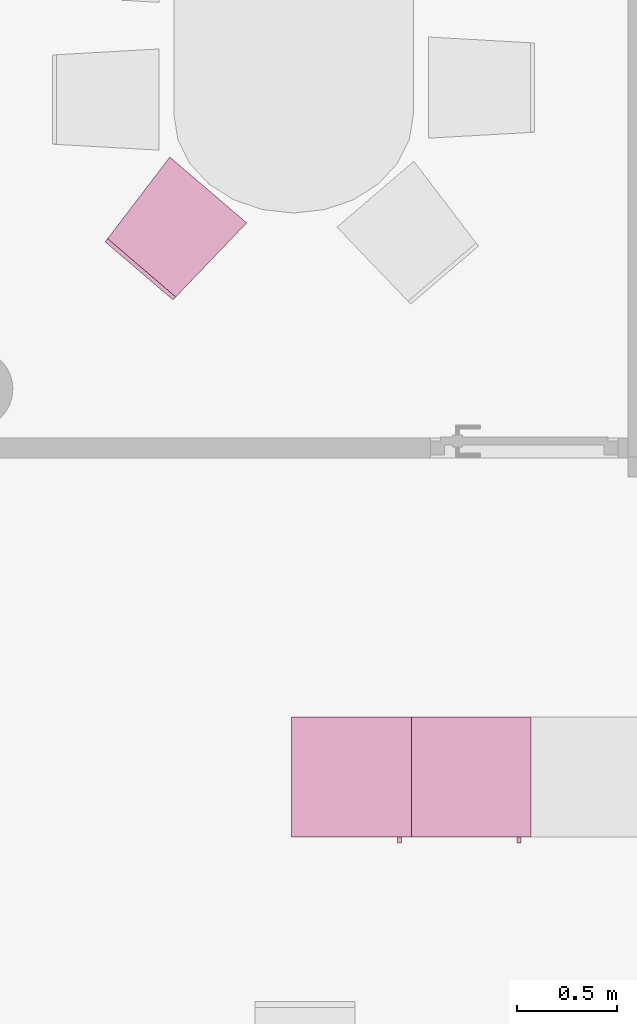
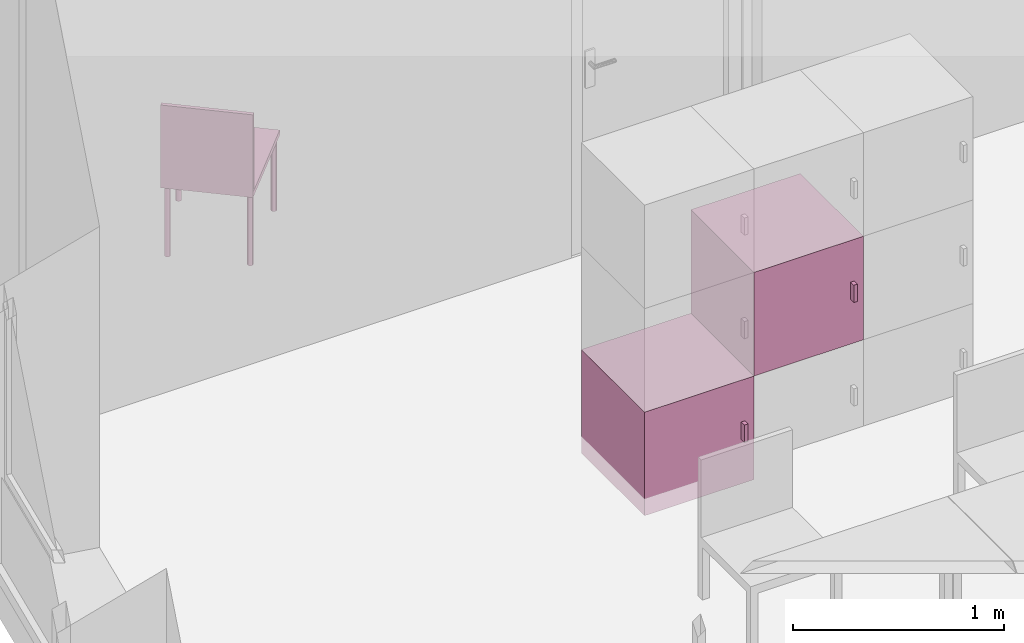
"""IFC4 building model written with IfcOpenShell, lengths in metres."""

from ifc_helpers import new_model, entity, si_unit, converted_unit, derived_unit, frame, origin, place, context, subcontext, project, spatial, faceted_brep, element, save


model = new_model("IFC4")

# Units and contexts
model_context = context("Model", 3, precision=1e-05, world=origin())
body_context = subcontext(model_context, "Body", "Model", "MODEL_VIEW")
ifc_project = project(units=[si_unit("LENGTHUNIT", "METRE"), si_unit("AREAUNIT", "SQUARE_METRE"), si_unit("VOLUMEUNIT", "CUBIC_METRE"), si_unit("MASSUNIT", "GRAM", prefix="KILO"), converted_unit("PLANEANGLEUNIT", "DEGREE", entity("IfcPlaneAngleMeasure", 0.0174532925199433), si_unit("PLANEANGLEUNIT", "RADIAN"), dimensions=[0, 0, 0, 0, 0, 0, 0]), derived_unit("THERMALTRANSMITTANCEUNIT", [(si_unit("POWERUNIT", "WATT"), 1), (si_unit("THERMODYNAMICTEMPERATUREUNIT", "KELVIN"), -1), (si_unit("LENGTHUNIT", "METRE"), -2)]), derived_unit("VOLUMETRICFLOWRATEUNIT", [(si_unit("LENGTHUNIT", "METRE"), 3), (converted_unit("TIMEUNIT", "hour", entity("IfcTimeMeasure", 3600.0), si_unit("TIMEUNIT", "SECOND"), dimensions=[0, 0, 1, 0, 0, 0, 0]), -1), (si_unit("LENGTHUNIT", "METRE"), -1)])], contexts=[model_context])

# Building, storeys
building_placement = place(None, origin())
building = spatial("IfcBuilding", under=ifc_project, at=building_placement, Name="HABITATGE PLURIFAMILIAR", CompositionType="ELEMENT")
storey_1_placement = place(building_placement, frame((0.0, 0.0, 15.28)))
storey_1 = spatial("IfcBuildingStorey", under=building, at=storey_1_placement, Name="PLANTA QUARTA", CompositionType="ELEMENT", Elevation=15.28)
storey_2_placement = place(storey_1_placement, frame((0.0, 0.0, 12.27)))
storey_2 = spatial("IfcBuildingStorey", under=storey_1, at=storey_2_placement, Name="NOU", CompositionType="PARTIAL")

# Furniture
furniture_1_placement = place(storey_2_placement, frame((402.652081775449, 21.5873137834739, -12.37)))
element("IfcFurniture", 1, at=furniture_1_placement, inside=storey_2, Name="Armai 60x60x60_P4", context=body_context, shape_type="Brep", body=[
    faceted_brep([(0.600000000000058, 0.0300000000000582, 0.02), (0.600000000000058, 0.0300000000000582, 0.0), (0.0, 0.0300000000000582, 0.0), (0.0, 0.0300000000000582, 0.02), (0.0, 0.630000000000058, 0.0), (0.0, 0.630000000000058, 0.02), (0.600000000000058, 0.630000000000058, 0.0), (0.600000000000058, 0.630000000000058, 0.02)], [[[0, 1, 2, 3]], [[3, 2, 4, 5]], [[5, 4, 6, 7]], [[7, 6, 1, 0]], [[0, 3, 5, 7]], [[1, 6, 4, 2]]], orient=[[False], [False], [False], [False], [False], [False]]),
    faceted_brep([(0.02, 0.63, 0.58), (0.02, 0.61, 0.58), (0.02, 0.61, 0.02), (0.02, 0.63, 0.02), (0.58, 0.61, 0.02), (0.58, 0.63, 0.02), (0.58, 0.61, 0.58), (0.58, 0.63, 0.58)], [[[0, 1, 2, 3]], [[3, 2, 4, 5]], [[5, 4, 6, 7]], [[7, 6, 1, 0]], [[0, 3, 5, 7]], [[1, 6, 4, 2]]], orient=[[False], [False], [False], [False], [False], [False]]),
    faceted_brep([(0.58, 0.0300000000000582, 0.58), (0.6, 0.0300000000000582, 0.58), (0.6, 0.0300000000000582, 0.02), (0.58, 0.0300000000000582, 0.02), (0.6, 0.630000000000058, 0.02), (0.58, 0.630000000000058, 0.02), (0.6, 0.630000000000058, 0.58), (0.58, 0.630000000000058, 0.58)], [[[0, 1, 2, 3]], [[3, 2, 4, 5]], [[5, 4, 6, 7]], [[7, 6, 1, 0]], [[0, 3, 5, 7]], [[1, 6, 4, 2]]], orient=[[False], [False], [False], [False], [False], [False]]),
    faceted_brep([(0.600000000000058, 0.0500000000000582, 0.58), (0.600000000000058, 0.0300000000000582, 0.58), (0.600000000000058, 0.0300000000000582, 0.02), (0.600000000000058, 0.0500000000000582, 0.02), (0.580000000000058, 0.0300000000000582, 0.02), (0.580000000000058, 0.0500000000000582, 0.02), (0.580000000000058, 0.0300000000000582, 0.58), (0.580000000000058, 0.0500000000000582, 0.58)], [[[0, 1, 2, 3]], [[3, 2, 4, 5]], [[5, 4, 6, 7]], [[7, 6, 1, 0]], [[0, 3, 5, 7]], [[1, 6, 4, 2]]], orient=[[False], [False], [False], [False], [False], [False]]),
    faceted_brep([(0.0, 0.0300000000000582, 0.58), (0.0200000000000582, 0.0300000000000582, 0.58), (0.0200000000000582, 0.0300000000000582, 0.02), (0.0, 0.0300000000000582, 0.02), (0.0200000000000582, 0.630000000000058, 0.02), (0.0, 0.630000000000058, 0.02), (0.0200000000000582, 0.630000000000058, 0.58), (0.0, 0.630000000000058, 0.58)], [[[0, 1, 2, 3]], [[3, 2, 4, 5]], [[5, 4, 6, 7]], [[7, 6, 1, 0]], [[0, 3, 5, 7]], [[1, 6, 4, 2]]], orient=[[False], [False], [False], [False], [False], [False]]),
    faceted_brep([(0.6, 0.03, 0.6), (0.6, 0.03, 0.58), (0.0, 0.03, 0.58), (0.0, 0.03, 0.6), (0.0, 0.63, 0.58), (0.0, 0.63, 0.6), (0.6, 0.63, 0.58), (0.6, 0.63, 0.6)], [[[0, 1, 2, 3]], [[3, 2, 4, 5]], [[5, 4, 6, 7]], [[7, 6, 1, 0]], [[0, 3, 5, 7]], [[1, 6, 4, 2]]], orient=[[False], [False], [False], [False], [False], [False]]),
    faceted_brep([(0.02, 0.05, 0.58), (0.02, 0.03, 0.58), (0.02, 0.03, 0.02), (0.02, 0.05, 0.02), (0.580000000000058, 0.03, 0.02), (0.580000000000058, 0.05, 0.02), (0.580000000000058, 0.03, 0.58), (0.580000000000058, 0.05, 0.58)], [[[0, 1, 2, 3]], [[3, 2, 4, 5]], [[5, 4, 6, 7]], [[7, 6, 1, 0]], [[0, 3, 5, 7]], [[1, 6, 4, 2]]], orient=[[False], [False], [False], [False], [False], [False]]),
    faceted_brep([(0.53, 0.03, 0.358064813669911), (0.53, 0.0, 0.358064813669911), (0.53, 0.0, 0.258064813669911), (0.53, 0.03, 0.258064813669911), (0.55, 0.0, 0.258064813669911), (0.55, 0.03, 0.258064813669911), (0.55, 0.0, 0.358064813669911), (0.55, 0.03, 0.358064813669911)], [[[0, 1, 2, 3]], [[3, 2, 4, 5]], [[5, 4, 6, 7]], [[7, 6, 1, 0]], [[0, 3, 5, 7]], [[1, 6, 4, 2]]], orient=[[False], [False], [False], [False], [False], [False]]),
])
furniture_2_placement = place(storey_2_placement, frame((403.252081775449, 21.5873137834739, -11.77)))
element("IfcFurniture", 2, at=furniture_2_placement, inside=storey_2, Name="Armai 60x60x60_P4", context=body_context, shape_type="Brep", body=[
    faceted_brep([(0.600000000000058, 0.0300000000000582, 0.02), (0.600000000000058, 0.0300000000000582, 0.0), (0.0, 0.0300000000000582, 0.0), (0.0, 0.0300000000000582, 0.02), (0.0, 0.630000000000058, 0.0), (0.0, 0.630000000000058, 0.02), (0.600000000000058, 0.630000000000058, 0.0), (0.600000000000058, 0.630000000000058, 0.02)], [[[0, 1, 2, 3]], [[3, 2, 4, 5]], [[5, 4, 6, 7]], [[7, 6, 1, 0]], [[0, 3, 5, 7]], [[1, 6, 4, 2]]], orient=[[False], [False], [False], [False], [False], [False]]),
    faceted_brep([(0.02, 0.63, 0.58), (0.02, 0.61, 0.58), (0.02, 0.61, 0.02), (0.02, 0.63, 0.02), (0.58, 0.61, 0.02), (0.58, 0.63, 0.02), (0.58, 0.61, 0.58), (0.58, 0.63, 0.58)], [[[0, 1, 2, 3]], [[3, 2, 4, 5]], [[5, 4, 6, 7]], [[7, 6, 1, 0]], [[0, 3, 5, 7]], [[1, 6, 4, 2]]], orient=[[False], [False], [False], [False], [False], [False]]),
    faceted_brep([(0.58, 0.0300000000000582, 0.58), (0.6, 0.0300000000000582, 0.58), (0.6, 0.0300000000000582, 0.02), (0.58, 0.0300000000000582, 0.02), (0.6, 0.630000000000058, 0.02), (0.58, 0.630000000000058, 0.02), (0.6, 0.630000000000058, 0.58), (0.58, 0.630000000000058, 0.58)], [[[0, 1, 2, 3]], [[3, 2, 4, 5]], [[5, 4, 6, 7]], [[7, 6, 1, 0]], [[0, 3, 5, 7]], [[1, 6, 4, 2]]], orient=[[False], [False], [False], [False], [False], [False]]),
    faceted_brep([(0.600000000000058, 0.0500000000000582, 0.58), (0.600000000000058, 0.0300000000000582, 0.58), (0.600000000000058, 0.0300000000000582, 0.02), (0.600000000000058, 0.0500000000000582, 0.02), (0.580000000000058, 0.0300000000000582, 0.02), (0.580000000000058, 0.0500000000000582, 0.02), (0.580000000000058, 0.0300000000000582, 0.58), (0.580000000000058, 0.0500000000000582, 0.58)], [[[0, 1, 2, 3]], [[3, 2, 4, 5]], [[5, 4, 6, 7]], [[7, 6, 1, 0]], [[0, 3, 5, 7]], [[1, 6, 4, 2]]], orient=[[False], [False], [False], [False], [False], [False]]),
    faceted_brep([(0.0, 0.0300000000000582, 0.58), (0.0200000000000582, 0.0300000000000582, 0.58), (0.0200000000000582, 0.0300000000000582, 0.02), (0.0, 0.0300000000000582, 0.02), (0.0200000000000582, 0.630000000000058, 0.02), (0.0, 0.630000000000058, 0.02), (0.0200000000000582, 0.630000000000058, 0.58), (0.0, 0.630000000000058, 0.58)], [[[0, 1, 2, 3]], [[3, 2, 4, 5]], [[5, 4, 6, 7]], [[7, 6, 1, 0]], [[0, 3, 5, 7]], [[1, 6, 4, 2]]], orient=[[False], [False], [False], [False], [False], [False]]),
    faceted_brep([(0.6, 0.03, 0.6), (0.6, 0.03, 0.58), (0.0, 0.03, 0.58), (0.0, 0.03, 0.6), (0.0, 0.63, 0.58), (0.0, 0.63, 0.6), (0.6, 0.63, 0.58), (0.6, 0.63, 0.6)], [[[0, 1, 2, 3]], [[3, 2, 4, 5]], [[5, 4, 6, 7]], [[7, 6, 1, 0]], [[0, 3, 5, 7]], [[1, 6, 4, 2]]], orient=[[False], [False], [False], [False], [False], [False]]),
    faceted_brep([(0.02, 0.05, 0.58), (0.02, 0.03, 0.58), (0.02, 0.03, 0.02), (0.02, 0.05, 0.02), (0.580000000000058, 0.03, 0.02), (0.580000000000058, 0.05, 0.02), (0.580000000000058, 0.03, 0.58), (0.580000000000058, 0.05, 0.58)], [[[0, 1, 2, 3]], [[3, 2, 4, 5]], [[5, 4, 6, 7]], [[7, 6, 1, 0]], [[0, 3, 5, 7]], [[1, 6, 4, 2]]], orient=[[False], [False], [False], [False], [False], [False]]),
    faceted_brep([(0.53, 0.03, 0.358064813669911), (0.53, 0.0, 0.358064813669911), (0.53, 0.0, 0.258064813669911), (0.53, 0.03, 0.258064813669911), (0.55, 0.0, 0.258064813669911), (0.55, 0.03, 0.258064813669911), (0.55, 0.0, 0.358064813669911), (0.55, 0.03, 0.358064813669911)], [[[0, 1, 2, 3]], [[3, 2, 4, 5]], [[5, 4, 6, 7]], [[7, 6, 1, 0]], [[0, 3, 5, 7]], [[1, 6, 4, 2]]], orient=[[False], [False], [False], [False], [False], [False]]),
])
furniture_3_placement = place(storey_2_placement, frame((401.719316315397, 24.305763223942, -12.3673852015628)))
element("IfcFurniture", 3, at=furniture_3_placement, inside=storey_2, Name="Cadira confident_P4", context=body_context, shape_type="Brep", body=[
    faceted_brep([(0.683310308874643, 0.393243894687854, 0.0), (0.681191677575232, 0.394757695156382, 0.0), (0.678842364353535, 0.395880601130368, 0.0), (0.676333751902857, 0.396578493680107, 0.0), (0.673742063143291, 0.396830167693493, 0.0), (0.671146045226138, 0.396627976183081, 0.0), (0.668624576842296, 0.395978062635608, 0.0), (0.666254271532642, 0.394900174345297, 0.0), (0.6641071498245, 0.393427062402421, 0.0), (0.662248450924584, 0.39160348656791, 0.0), (0.660734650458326, 0.389484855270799, 0.0), (0.659611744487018, 0.387135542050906, 0.0), (0.658913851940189, 0.384626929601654, 0.0), (0.658662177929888, 0.382035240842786, 0.0), (0.658864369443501, 0.379439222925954, 0.0), (0.659514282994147, 0.376917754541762, 0.0), (0.660592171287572, 0.374547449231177, 0.0), (0.6620652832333, 0.372400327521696, 0.0), (0.66388885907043, 0.370541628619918, 0.0), (0.666007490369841, 0.36902782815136, 0.0), (0.668356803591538, 0.367904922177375, 0.0), (0.670865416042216, 0.367207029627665, 0.0), (0.673457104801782, 0.366955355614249, 0.0), (0.676053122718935, 0.367157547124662, 0.0), (0.678574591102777, 0.367807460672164, 0.0), (0.680944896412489, 0.368885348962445, 0.0), (0.683092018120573, 0.370358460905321, 0.0), (0.684950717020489, 0.372182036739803, 0.0), (0.686464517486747, 0.374300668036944, 0.0), (0.687587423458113, 0.376649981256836, 0.0), (0.688285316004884, 0.379158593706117, 0.0), (0.688536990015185, 0.381750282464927, 0.0), (0.688334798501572, 0.384346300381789, 0.0), (0.687684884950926, 0.386867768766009, 0.0), (0.686606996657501, 0.389238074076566, 0.0), (0.685133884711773, 0.391385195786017, 0.0), (0.683310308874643, 0.393243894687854, 0.448281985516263), (0.685133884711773, 0.391385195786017, 0.448281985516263), (0.686606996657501, 0.389238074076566, 0.448281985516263), (0.687684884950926, 0.386867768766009, 0.448281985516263), (0.688334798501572, 0.384346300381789, 0.448281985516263), (0.688536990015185, 0.381750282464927, 0.448281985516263), (0.688285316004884, 0.379158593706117, 0.448281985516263), (0.687587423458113, 0.376649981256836, 0.448281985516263), (0.686464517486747, 0.374300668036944, 0.448281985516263), (0.684950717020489, 0.372182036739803, 0.448281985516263), (0.683092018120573, 0.370358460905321, 0.448281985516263), (0.680944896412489, 0.368885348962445, 0.448281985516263), (0.678574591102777, 0.367807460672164, 0.448281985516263), (0.676053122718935, 0.367157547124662, 0.448281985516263), (0.673457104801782, 0.366955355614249, 0.448281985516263), (0.670865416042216, 0.367207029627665, 0.448281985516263), (0.668356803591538, 0.367904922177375, 0.448281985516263), (0.666007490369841, 0.36902782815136, 0.448281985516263), (0.66388885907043, 0.370541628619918, 0.448281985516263), (0.6620652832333, 0.372400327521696, 0.448281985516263), (0.660592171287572, 0.374547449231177, 0.448281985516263), (0.659514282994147, 0.376917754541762, 0.448281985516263), (0.658864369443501, 0.379439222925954, 0.448281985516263), (0.658662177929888, 0.382035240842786, 0.448281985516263), (0.658913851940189, 0.384626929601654, 0.448281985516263), (0.659611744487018, 0.387135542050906, 0.448281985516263), (0.660734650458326, 0.389484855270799, 0.448281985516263), (0.662248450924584, 0.39160348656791, 0.448281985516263), (0.6641071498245, 0.393427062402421, 0.448281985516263), (0.666254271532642, 0.394900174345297, 0.448281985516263), (0.668624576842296, 0.395978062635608, 0.448281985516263), (0.671146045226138, 0.396627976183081, 0.448281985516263), (0.673742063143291, 0.396830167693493, 0.448281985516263), (0.676333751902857, 0.396578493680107, 0.448281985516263), (0.678842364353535, 0.395880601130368, 0.448281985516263), (0.681191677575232, 0.394757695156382, 0.448281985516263)], [[[0, 1, 2, 3, 4, 5, 6, 7, 8, 9, 10, 11, 12, 13, 14, 15, 16, 17, 18, 19, 20, 21, 22, 23, 24, 25, 26, 27, 28, 29, 30, 31, 32, 33, 34, 35]], [[36, 37, 38, 39, 40, 41, 42, 43, 44, 45, 46, 47, 48, 49, 50, 51, 52, 53, 54, 55, 56, 57, 58, 59, 60, 61, 62, 63, 64, 65, 66, 67, 68, 69, 70, 71]], [[1, 0, 36, 71]], [[2, 1, 71, 70]], [[3, 2, 70, 69]], [[4, 3, 69, 68]], [[5, 4, 68, 67]], [[6, 5, 67, 66]], [[7, 6, 66, 65]], [[8, 7, 65, 64]], [[9, 8, 64, 63]], [[10, 9, 63, 62]], [[11, 10, 62, 61]], [[12, 11, 61, 60]], [[13, 12, 60, 59]], [[14, 13, 59, 58]], [[15, 14, 58, 57]], [[16, 15, 57, 56]], [[17, 16, 56, 55]], [[18, 17, 55, 54]], [[19, 18, 54, 53]], [[20, 19, 53, 52]], [[21, 20, 52, 51]], [[22, 21, 51, 50]], [[23, 22, 50, 49]], [[24, 23, 49, 48]], [[25, 24, 48, 47]], [[26, 25, 47, 46]], [[27, 26, 46, 45]], [[28, 27, 45, 44]], [[29, 28, 44, 43]], [[30, 29, 43, 42]], [[31, 30, 42, 41]], [[32, 31, 41, 40]], [[33, 32, 40, 39]], [[34, 33, 39, 38]], [[35, 34, 38, 37]], [[0, 35, 37, 36]]], orient=[[False], [False], [False], [False], [False], [False], [False], [False], [False], [False], [False], [False], [False], [False], [False], [False], [False], [False], [False], [False], [False], [False], [False], [False], [False], [False], [False], [False], [False], [False], [False], [False], [False], [False], [False], [False], [False], [False]]),
    faceted_brep([(0.361714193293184, 0.0598371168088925, 0.0), (0.359595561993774, 0.061350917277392, 0.0), (0.357246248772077, 0.0624738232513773, 0.0), (0.354737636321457, 0.0631717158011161, 0.0), (0.352145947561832, 0.0634233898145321, 0.0), (0.34954992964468, 0.0632211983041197, 0.0), (0.347028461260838, 0.0625712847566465, 0.0), (0.344658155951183, 0.061493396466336, 0.0), (0.342511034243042, 0.0600202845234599, 0.0), (0.340652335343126, 0.0581967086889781, 0.0), (0.339138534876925, 0.0560780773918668, 0.0), (0.338015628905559, 0.053728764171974, 0.0), (0.337317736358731, 0.051220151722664, 0.0), (0.337066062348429, 0.0486284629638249, 0.0), (0.337268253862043, 0.0460324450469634, 0.0), (0.337918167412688, 0.0435109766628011, 0.0), (0.338996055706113, 0.0411406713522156, 0.0), (0.3404691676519, 0.0389935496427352, 0.0), (0.34229274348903, 0.0371348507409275, 0.0), (0.34441137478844, 0.035621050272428, 0.0), (0.346760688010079, 0.0344981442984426, 0.0), (0.349269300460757, 0.0338002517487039, 0.0), (0.351860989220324, 0.0335485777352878, 0.0), (0.354457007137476, 0.0337507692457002, 0.0), (0.356978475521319, 0.0344006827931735, 0.0), (0.359348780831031, 0.035478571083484, 0.0), (0.361495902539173, 0.0369516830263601, 0.0), (0.36335460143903, 0.0387752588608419, 0.0), (0.364868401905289, 0.0408938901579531, 0.0), (0.365991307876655, 0.0432432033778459, 0.0), (0.366689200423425, 0.0457518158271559, 0.0), (0.366940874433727, 0.0483435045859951, 0.0), (0.366738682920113, 0.0509395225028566, 0.0), (0.366088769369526, 0.0534609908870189, 0.0), (0.365010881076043, 0.0558312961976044, 0.0), (0.363537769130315, 0.0579784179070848, 0.0), (0.361714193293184, 0.0598371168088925, 0.448281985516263), (0.363537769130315, 0.0579784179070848, 0.448281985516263), (0.365010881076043, 0.0558312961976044, 0.448281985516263), (0.366088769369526, 0.0534609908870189, 0.448281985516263), (0.366738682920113, 0.0509395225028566, 0.448281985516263), (0.366940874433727, 0.0483435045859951, 0.448281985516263), (0.366689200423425, 0.0457518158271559, 0.448281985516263), (0.365991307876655, 0.0432432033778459, 0.448281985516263), (0.364868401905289, 0.0408938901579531, 0.448281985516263), (0.36335460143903, 0.0387752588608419, 0.448281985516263), (0.361495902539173, 0.0369516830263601, 0.448281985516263), (0.359348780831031, 0.035478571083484, 0.448281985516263), (0.356978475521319, 0.0344006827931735, 0.448281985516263), (0.354457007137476, 0.0337507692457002, 0.448281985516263), (0.351860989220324, 0.0335485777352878, 0.448281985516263), (0.349269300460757, 0.0338002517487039, 0.448281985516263), (0.346760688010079, 0.0344981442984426, 0.448281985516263), (0.34441137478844, 0.035621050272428, 0.448281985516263), (0.34229274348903, 0.0371348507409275, 0.448281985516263), (0.3404691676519, 0.0389935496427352, 0.448281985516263), (0.338996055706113, 0.0411406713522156, 0.448281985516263), (0.337918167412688, 0.0435109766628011, 0.448281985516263), (0.337268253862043, 0.0460324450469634, 0.448281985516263), (0.337066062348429, 0.0486284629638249, 0.448281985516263), (0.337317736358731, 0.051220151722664, 0.448281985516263), (0.338015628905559, 0.053728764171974, 0.448281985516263), (0.339138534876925, 0.0560780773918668, 0.448281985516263), (0.340652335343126, 0.0581967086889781, 0.448281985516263), (0.342511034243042, 0.0600202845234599, 0.448281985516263), (0.344658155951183, 0.061493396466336, 0.448281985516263), (0.347028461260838, 0.0625712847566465, 0.448281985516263), (0.34954992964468, 0.0632211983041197, 0.448281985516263), (0.352145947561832, 0.0634233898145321, 0.448281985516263), (0.354737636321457, 0.0631717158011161, 0.448281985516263), (0.357246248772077, 0.0624738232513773, 0.448281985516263), (0.359595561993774, 0.061350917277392, 0.448281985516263)], [[[0, 1, 2, 3, 4, 5, 6, 7, 8, 9, 10, 11, 12, 13, 14, 15, 16, 17, 18, 19, 20, 21, 22, 23, 24, 25, 26, 27, 28, 29, 30, 31, 32, 33, 34, 35]], [[36, 37, 38, 39, 40, 41, 42, 43, 44, 45, 46, 47, 48, 49, 50, 51, 52, 53, 54, 55, 56, 57, 58, 59, 60, 61, 62, 63, 64, 65, 66, 67, 68, 69, 70, 71]], [[1, 0, 36, 71]], [[2, 1, 71, 70]], [[3, 2, 70, 69]], [[4, 3, 69, 68]], [[5, 4, 68, 67]], [[6, 5, 67, 66]], [[7, 6, 66, 65]], [[8, 7, 65, 64]], [[9, 8, 64, 63]], [[10, 9, 63, 62]], [[11, 10, 62, 61]], [[12, 11, 61, 60]], [[13, 12, 60, 59]], [[14, 13, 59, 58]], [[15, 14, 58, 57]], [[16, 15, 57, 56]], [[17, 16, 56, 55]], [[18, 17, 55, 54]], [[19, 18, 54, 53]], [[20, 19, 53, 52]], [[21, 20, 52, 51]], [[22, 21, 51, 50]], [[23, 22, 50, 49]], [[24, 23, 49, 48]], [[25, 24, 48, 47]], [[26, 25, 47, 46]], [[27, 26, 46, 45]], [[28, 27, 45, 44]], [[29, 28, 44, 43]], [[30, 29, 43, 42]], [[31, 30, 42, 41]], [[32, 31, 41, 40]], [[33, 32, 40, 39]], [[34, 33, 39, 38]], [[35, 34, 38, 37]], [[0, 35, 37, 36]]], orient=[[False], [False], [False], [False], [False], [False], [False], [False], [False], [False], [False], [False], [False], [False], [False], [False], [False], [False], [False], [False], [False], [False], [False], [False], [False], [False], [False], [False], [False], [False], [False], [False], [False], [False], [False], [False], [False], [False]]),
    faceted_brep([(0.333766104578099, 0.692273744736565, 0.0), (0.331647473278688, 0.693787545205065, 0.0), (0.329298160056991, 0.69491045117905, 0.0), (0.326789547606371, 0.695608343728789, 0.0), (0.324197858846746, 0.695860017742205, 0.0), (0.321601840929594, 0.695657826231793, 0.0), (0.319080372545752, 0.69500791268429, 0.0), (0.316710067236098, 0.69393002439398, 0.0), (0.314562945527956, 0.692456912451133, 0.0), (0.312704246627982, 0.690633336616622, 0.0), (0.31119044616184, 0.688514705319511, 0.0), (0.310067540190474, 0.686165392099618, 0.0), (0.309369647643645, 0.683656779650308, 0.0), (0.309117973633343, 0.681065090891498, 0.0), (0.309320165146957, 0.678469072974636, 0.0), (0.309970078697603, 0.675947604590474, 0.0), (0.311047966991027, 0.673577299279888, 0.0), (0.312521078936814, 0.671430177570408, 0.0), (0.314344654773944, 0.6695714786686, 0.0), (0.316463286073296, 0.668057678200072, 0.0), (0.318812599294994, 0.666934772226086, 0.0), (0.321321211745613, 0.666236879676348, 0.0), (0.323912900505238, 0.665985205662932, 0.0), (0.326508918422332, 0.666187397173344, 0.0), (0.329030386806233, 0.666837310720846, 0.0), (0.331400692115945, 0.667915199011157, 0.0), (0.333547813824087, 0.669388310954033, 0.0), (0.335406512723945, 0.671211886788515, 0.0), (0.336920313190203, 0.673330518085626, 0.0), (0.338043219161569, 0.675679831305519, 0.0), (0.338741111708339, 0.678188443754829, 0.0), (0.338992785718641, 0.680780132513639, 0.0), (0.338790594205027, 0.6833761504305, 0.0), (0.338140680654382, 0.685897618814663, 0.0), (0.337062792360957, 0.688267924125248, 0.0), (0.335589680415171, 0.690415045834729, 0.0), (0.333766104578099, 0.692273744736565, 0.448281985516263), (0.335589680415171, 0.690415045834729, 0.448281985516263), (0.337062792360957, 0.688267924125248, 0.448281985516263), (0.338140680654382, 0.685897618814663, 0.448281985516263), (0.338790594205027, 0.6833761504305, 0.448281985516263), (0.338992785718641, 0.680780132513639, 0.448281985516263), (0.338741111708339, 0.678188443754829, 0.448281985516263), (0.338043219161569, 0.675679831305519, 0.448281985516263), (0.336920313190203, 0.673330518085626, 0.448281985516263), (0.335406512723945, 0.671211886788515, 0.448281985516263), (0.333547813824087, 0.669388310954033, 0.448281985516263), (0.331400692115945, 0.667915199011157, 0.448281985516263), (0.329030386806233, 0.666837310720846, 0.448281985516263), (0.326508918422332, 0.666187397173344, 0.448281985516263), (0.323912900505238, 0.665985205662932, 0.448281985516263), (0.321321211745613, 0.666236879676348, 0.448281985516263), (0.318812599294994, 0.666934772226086, 0.448281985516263), (0.316463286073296, 0.668057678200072, 0.448281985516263), (0.314344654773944, 0.6695714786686, 0.448281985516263), (0.312521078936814, 0.671430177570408, 0.448281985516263), (0.311047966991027, 0.673577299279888, 0.448281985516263), (0.309970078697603, 0.675947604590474, 0.448281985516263), (0.309320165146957, 0.678469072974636, 0.448281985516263), (0.309117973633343, 0.681065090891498, 0.448281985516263), (0.309369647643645, 0.683656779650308, 0.448281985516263), (0.310067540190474, 0.686165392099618, 0.448281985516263), (0.31119044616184, 0.688514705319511, 0.448281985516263), (0.312704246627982, 0.690633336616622, 0.448281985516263), (0.314562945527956, 0.692456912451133, 0.448281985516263), (0.316710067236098, 0.69393002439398, 0.448281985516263), (0.319080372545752, 0.69500791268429, 0.448281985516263), (0.321601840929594, 0.695657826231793, 0.448281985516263), (0.324197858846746, 0.695860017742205, 0.448281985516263), (0.326789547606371, 0.695608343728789, 0.448281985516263), (0.329298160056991, 0.69491045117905, 0.448281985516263), (0.331647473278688, 0.693787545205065, 0.448281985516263)], [[[0, 1, 2, 3, 4, 5, 6, 7, 8, 9, 10, 11, 12, 13, 14, 15, 16, 17, 18, 19, 20, 21, 22, 23, 24, 25, 26, 27, 28, 29, 30, 31, 32, 33, 34, 35]], [[36, 37, 38, 39, 40, 41, 42, 43, 44, 45, 46, 47, 48, 49, 50, 51, 52, 53, 54, 55, 56, 57, 58, 59, 60, 61, 62, 63, 64, 65, 66, 67, 68, 69, 70, 71]], [[1, 0, 36, 71]], [[2, 1, 71, 70]], [[3, 2, 70, 69]], [[4, 3, 69, 68]], [[5, 4, 68, 67]], [[6, 5, 67, 66]], [[7, 6, 66, 65]], [[8, 7, 65, 64]], [[9, 8, 64, 63]], [[10, 9, 63, 62]], [[11, 10, 62, 61]], [[12, 11, 61, 60]], [[13, 12, 60, 59]], [[14, 13, 59, 58]], [[15, 14, 58, 57]], [[16, 15, 57, 56]], [[17, 16, 56, 55]], [[18, 17, 55, 54]], [[19, 18, 54, 53]], [[20, 19, 53, 52]], [[21, 20, 52, 51]], [[22, 21, 51, 50]], [[23, 22, 50, 49]], [[24, 23, 49, 48]], [[25, 24, 48, 47]], [[26, 25, 47, 46]], [[27, 26, 46, 45]], [[28, 27, 45, 44]], [[29, 28, 44, 43]], [[30, 29, 43, 42]], [[31, 30, 42, 41]], [[32, 31, 41, 40]], [[33, 32, 40, 39]], [[34, 33, 39, 38]], [[35, 34, 38, 37]], [[0, 35, 37, 36]]], orient=[[False], [False], [False], [False], [False], [False], [False], [False], [False], [False], [False], [False], [False], [False], [False], [False], [False], [False], [False], [False], [False], [False], [False], [False], [False], [False], [False], [False], [False], [False], [False], [False], [False], [False], [False], [False], [False], [False]]),
    faceted_brep([(0.0577627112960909, 0.319863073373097, 0.0), (0.0556440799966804, 0.321376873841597, 0.0), (0.0532947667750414, 0.322499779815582, 0.0), (0.0507861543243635, 0.323197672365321, 0.0), (0.0481944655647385, 0.323449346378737, 0.0), (0.0455984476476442, 0.323247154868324, 0.0), (0.0430769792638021, 0.322597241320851, 0.0), (0.0407066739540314, 0.321519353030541, 0.0), (0.0385595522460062, 0.320046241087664, 0.0), (0.0367008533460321, 0.318222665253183, 0.0), (0.0351870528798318, 0.316104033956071, 0.0), (0.0340641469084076, 0.313754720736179, 0.0), (0.0333662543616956, 0.311246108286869, 0.0), (0.0331145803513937, 0.308654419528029, 0.0), (0.0333167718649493, 0.306058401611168, 0.0), (0.0339666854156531, 0.303536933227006, 0.0), (0.0350445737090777, 0.30116662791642, 0.0), (0.036517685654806, 0.29901950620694, 0.0), (0.0383412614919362, 0.297160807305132, 0.0), (0.0404598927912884, 0.295647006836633, 0.0), (0.0428092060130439, 0.294524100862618, 0.0), (0.0453178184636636, 0.293826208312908, 0.0), (0.0479095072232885, 0.293574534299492, 0.0), (0.0505055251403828, 0.293776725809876, 0.0), (0.0530269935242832, 0.294426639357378, 0.0), (0.0553972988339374, 0.295504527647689, 0.0), (0.057544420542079, 0.296977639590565, 0.0), (0.0594031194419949, 0.298801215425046, 0.0), (0.0609169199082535, 0.300919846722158, 0.0), (0.0620398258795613, 0.30326915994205, 0.0), (0.0627377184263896, 0.305777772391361, 0.0), (0.0629893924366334, 0.308369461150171, 0.0), (0.0627872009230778, 0.310965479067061, 0.0), (0.062137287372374, 0.313486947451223, 0.0), (0.0610593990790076, 0.31585725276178, 0.0), (0.0595862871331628, 0.318004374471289, 0.0), (0.0577627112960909, 0.319863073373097, 0.448281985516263), (0.0595862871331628, 0.318004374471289, 0.448281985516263), (0.0610593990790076, 0.31585725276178, 0.448281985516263), (0.062137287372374, 0.313486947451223, 0.448281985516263), (0.0627872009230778, 0.310965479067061, 0.448281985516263), (0.0629893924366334, 0.308369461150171, 0.448281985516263), (0.0627377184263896, 0.305777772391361, 0.448281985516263), (0.0620398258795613, 0.30326915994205, 0.448281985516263), (0.0609169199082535, 0.300919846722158, 0.448281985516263), (0.0594031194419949, 0.298801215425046, 0.448281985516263), (0.057544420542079, 0.296977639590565, 0.448281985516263), (0.0553972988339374, 0.295504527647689, 0.448281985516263), (0.0530269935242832, 0.294426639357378, 0.448281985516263), (0.0505055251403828, 0.293776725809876, 0.448281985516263), (0.0479095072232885, 0.293574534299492, 0.448281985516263), (0.0453178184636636, 0.293826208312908, 0.448281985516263), (0.0428092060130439, 0.294524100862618, 0.448281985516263), (0.0404598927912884, 0.295647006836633, 0.448281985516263), (0.0383412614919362, 0.297160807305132, 0.448281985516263), (0.036517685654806, 0.29901950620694, 0.448281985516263), (0.0350445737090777, 0.30116662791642, 0.448281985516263), (0.0339666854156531, 0.303536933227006, 0.448281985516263), (0.0333167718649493, 0.306058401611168, 0.448281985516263), (0.0331145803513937, 0.308654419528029, 0.448281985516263), (0.0333662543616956, 0.311246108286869, 0.448281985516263), (0.0340641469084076, 0.313754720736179, 0.448281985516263), (0.0351870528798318, 0.316104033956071, 0.448281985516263), (0.0367008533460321, 0.318222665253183, 0.448281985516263), (0.0385595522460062, 0.320046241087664, 0.448281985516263), (0.0407066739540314, 0.321519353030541, 0.448281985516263), (0.0430769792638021, 0.322597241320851, 0.448281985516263), (0.0455984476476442, 0.323247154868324, 0.448281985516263), (0.0481944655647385, 0.323449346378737, 0.448281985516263), (0.0507861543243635, 0.323197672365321, 0.448281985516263), (0.0532947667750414, 0.322499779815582, 0.448281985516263), (0.0556440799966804, 0.321376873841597, 0.448281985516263)], [[[0, 1, 2, 3, 4, 5, 6, 7, 8, 9, 10, 11, 12, 13, 14, 15, 16, 17, 18, 19, 20, 21, 22, 23, 24, 25, 26, 27, 28, 29, 30, 31, 32, 33, 34, 35]], [[36, 37, 38, 39, 40, 41, 42, 43, 44, 45, 46, 47, 48, 49, 50, 51, 52, 53, 54, 55, 56, 57, 58, 59, 60, 61, 62, 63, 64, 65, 66, 67, 68, 69, 70, 71]], [[1, 0, 36, 71]], [[2, 1, 71, 70]], [[3, 2, 70, 69]], [[4, 3, 69, 68]], [[5, 4, 68, 67]], [[6, 5, 67, 66]], [[7, 6, 66, 65]], [[8, 7, 65, 64]], [[9, 8, 64, 63]], [[10, 9, 63, 62]], [[11, 10, 62, 61]], [[12, 11, 61, 60]], [[13, 12, 60, 59]], [[14, 13, 59, 58]], [[15, 14, 58, 57]], [[16, 15, 57, 56]], [[17, 16, 56, 55]], [[18, 17, 55, 54]], [[19, 18, 54, 53]], [[20, 19, 53, 52]], [[21, 20, 52, 51]], [[22, 21, 51, 50]], [[23, 22, 50, 49]], [[24, 23, 49, 48]], [[25, 24, 48, 47]], [[26, 25, 47, 46]], [[27, 26, 46, 45]], [[28, 27, 45, 44]], [[29, 28, 44, 43]], [[30, 29, 43, 42]], [[31, 30, 42, 41]], [[32, 31, 41, 40]], [[33, 32, 40, 39]], [[34, 33, 39, 38]], [[35, 34, 38, 37]], [[0, 35, 37, 36]]], orient=[[False], [False], [False], [False], [False], [False], [False], [False], [False], [False], [False], [False], [False], [False], [False], [False], [False], [False], [False], [False], [False], [False], [False], [False], [False], [False], [False], [False], [False], [False], [False], [False], [False], [False], [False], [False], [False], [False]]),
    faceted_brep([(0.0, 0.290263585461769, 0.418281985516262), (0.339297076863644, 0.0, 0.418281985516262), (0.708323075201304, 0.385215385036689, 0.418281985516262), (0.323433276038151, 0.71448286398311, 0.418281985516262), (0.323433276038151, 0.71448286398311, 0.44828198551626), (0.708323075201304, 0.385215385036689, 0.44828198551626), (0.339297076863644, 0.0, 0.44828198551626), (0.0, 0.290263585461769, 0.44828198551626)], [[[0, 1, 2, 3]], [[4, 5, 6, 7]], [[3, 4, 7, 0]], [[2, 5, 4, 3]], [[1, 6, 5, 2]], [[0, 7, 6, 1]]], orient=[[False], [False], [False], [False], [False], [False]]),
    faceted_brep([(0.013001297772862, 0.30546115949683, 0.44828198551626), (0.0, 0.290263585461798, 0.44828198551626), (0.339297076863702, 0.0, 0.44828198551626), (0.352298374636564, 0.0151975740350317, 0.44828198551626), (0.352298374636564, 0.0151975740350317, 0.898281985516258), (0.339297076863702, 0.0, 0.898281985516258), (0.0, 0.290263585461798, 0.898281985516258), (0.013001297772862, 0.30546115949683, 0.898281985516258)], [[[0, 1, 2, 3]], [[4, 5, 6, 7]], [[3, 4, 7, 0]], [[2, 5, 4, 3]], [[1, 6, 5, 2]], [[0, 7, 6, 1]]], orient=[[False], [False], [False], [False], [False], [False]]),
])

save(model, "model.ifc")
